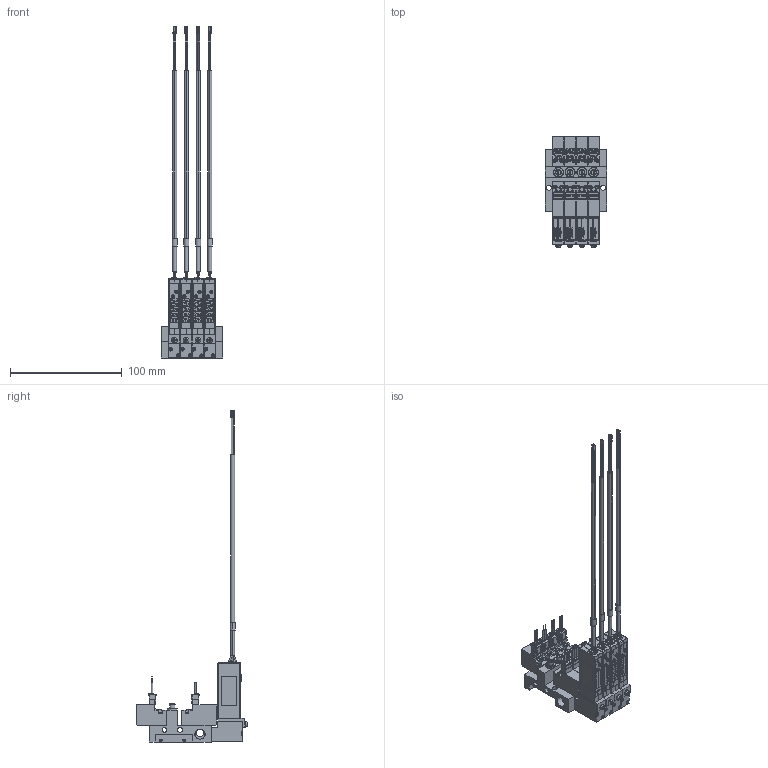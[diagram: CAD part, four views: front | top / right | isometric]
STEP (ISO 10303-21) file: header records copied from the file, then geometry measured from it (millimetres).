
FILE_DESCRIPTION(('STEP AP203'),'1');
FILE_NAME('1-L-4EZ-M04-V9.stp','2025-05-09T01:24:13',(' '),(' '),'Spatial InterOp 3D',' ',' ');
FILE_SCHEMA(('CONFIG_CONTROL_DESIGN'));
Length unit declared in the file: millimetre
Products named in the file (118): PV1※1-L-4EZ-M04-V9; BODY; PLATE; NEEDLE; BOLT; SOLENOID VALVE VOLTAGE PV; 42; 45; 48; 51; SOLENOID VALVE PV101-W; BRAKET(MPS-V9  PV-L용)NEW; BRAKET; MPS-V9AC.ics; __1; MPS-V9AC; MSBR-1_1; MSBR-4_1; MSBR-7_1; MSBR-21_1; MSBR-24_1; MSBR-25_1; MSBR-26_1; MSBR-27_1; MSBR-28_1; MSBR-29_1
Assembly tree (117 placements, depth 5):
  PV1※1-L-4EZ-M04-V9
    BODY
    PLATE
    PLATE
    NEEDLE
    BOLT
    BOLT
    BOLT
    BOLT
    BOLT
    BOLT
    SOLENOID VALVE VOLTAGE PV
      42
      45
      48
      51
    NEEDLE
    SOLENOID VALVE VOLTAGE PV
      42
      45
      48
      51
    NEEDLE
    SOLENOID VALVE VOLTAGE PV
      42
      45
      48
      51
    PLATE
    BOLT
    BOLT
    BOLT
    PLATE
    BOLT
    BOLT
    BOLT
    NEEDLE
    SOLENOID VALVE VOLTAGE PV
      42
      45
      48
      51
    SOLENOID VALVE PV101-W
    SOLENOID VALVE PV101-W
    SOLENOID VALVE PV101-W
    SOLENOID VALVE PV101-W
    BRAKET(MPS-V9  PV-L용)NEW
      BOLT
      BOLT
      BRAKET
      MPS-V9AC.ics
        __1
        MPS-V9AC
          MSBR-1_1
          MSBR-4_1
          MSBR-4_1
          MSBR-7_1
          MSBR-21_1
          MSBR-24_1
          MSBR-25_1
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Bounding box: 55.5 x 99.29 x 297.25 mm (x, y, z)
Volume: 117857.4 mm3; surface area: 99875.7 mm2
Topology: 97 solids, 133 shells, 4857 faces, 13202 edges, 8897 vertices
Faces by surface type: plane 3788, cylinder 815, torus 92, bspline 60, cone 46, extrusion 40, sphere 16
Full cylindrical faces by diameter (mm): 1.4 x12, 2 x12, 2.3 x8, 2.5 x4, 3 x28, 3.5 x4, 4.2 x10, 4.5 x2, 5 x8, 6.5 x1, 8.797 x2, 9 x4
Entity records: 159478 total; most frequent: CARTESIAN_POINT 30679, ORIENTED_EDGE 25488, DIRECTION 24706, EDGE_CURVE 12896, VECTOR 10028, LINE 9988, VERTEX_POINT 8792, AXIS2_PLACEMENT_3D 7339
